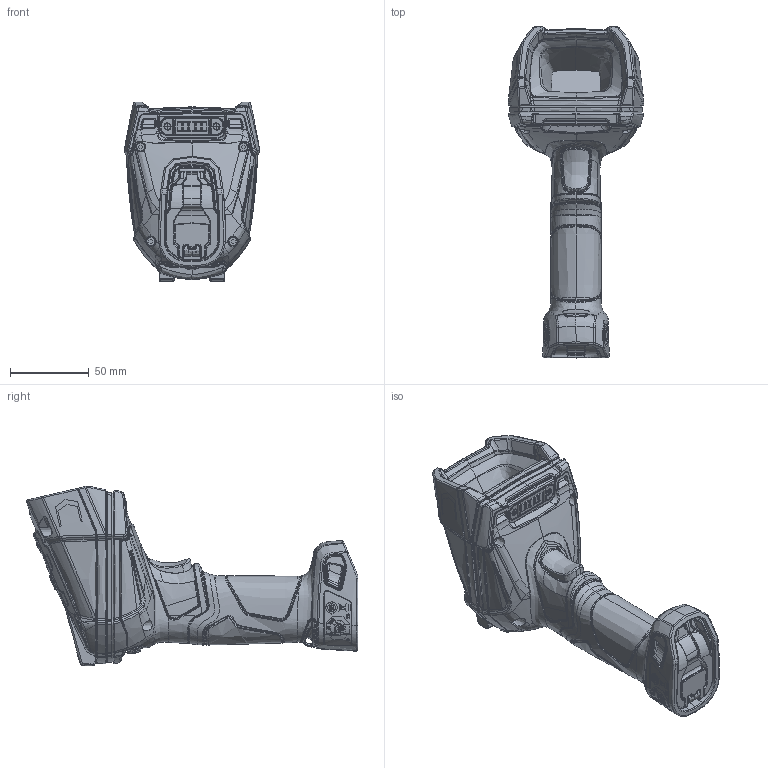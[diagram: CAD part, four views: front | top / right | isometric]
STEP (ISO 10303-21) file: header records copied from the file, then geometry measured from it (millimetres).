
FILE_DESCRIPTION (( 'STEP AP214' ), '1' );
FILE_NAME ('Kite LX Wireless.STEP', '2023-01-05T12:41:43', ( '' ), ( '' ), 'SwSTEP 2.0', 'SolidWorks 2021', '' );
FILE_SCHEMA (( 'AUTOMOTIVE_DESIGN' ));
Length unit declared in the file: millimetre
Products named in the file (1): Kite LX Wireless
Bounding box: 85.93 x 210.14 x 113.96 mm (x, y, z)
Surface area: 81380.4 mm2
Topology: 2 solids, 3 shells, 6944 faces, 17906 edges, 11001 vertices
Faces by surface type: bspline 6474, plane 171, cone 143, cylinder 127, torus 23, sphere 6
Full cylindrical faces by diameter (mm): 3.8 x2, 5.5 x2
Entity records: 588896 total; most frequent: CARTESIAN_POINT 403576, ORIENTED_EDGE 35466, EDGE_CURVE 17733, B_SPLINE_CURVE_WITH_KNOTS 14098, VERTEX_POINT 10990, EDGE_LOOP 7171, FACE_OUTER_BOUND 6948, UNCERTAINTY_MEASURE_WITH_UNIT 6948
